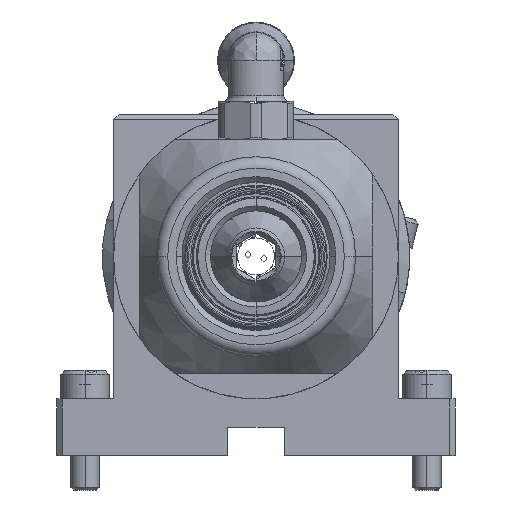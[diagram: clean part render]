
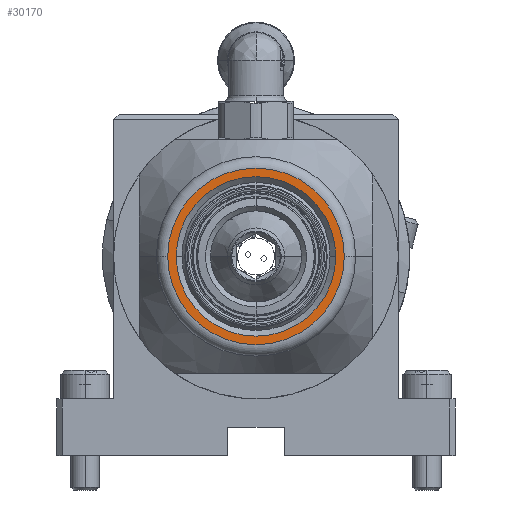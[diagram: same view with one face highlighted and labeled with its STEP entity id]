
A CAD part, front view. The second image highlights one B-rep face of the part: STEP entity #30170.
In plain terms, the highlighted planar face has unit normal (0, -1, 0).
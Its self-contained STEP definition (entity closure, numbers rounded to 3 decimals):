
#104 = AXIS2_PLACEMENT_3D ( 'NONE', #2593, #16788, #23913 ) ;
#194 = CIRCLE ( 'NONE', #104, 15.5 ) ;
#335 = DIRECTION ( 'NONE',  ( 0., 1., 0. ) ) ;
#1979 = DIRECTION ( 'NONE',  ( 0., -1., 0. ) ) ;
#2468 = CARTESIAN_POINT ( 'NONE',  ( -14., -149.5, 5. ) ) ;
#2593 = CARTESIAN_POINT ( 'NONE',  ( 0., -149.5, 5. ) ) ;
#3398 = VERTEX_POINT ( 'NONE', #12891 ) ;
#4180 = AXIS2_PLACEMENT_3D ( 'NONE', #35145, #30137, #27240 ) ;
#5967 = DIRECTION ( 'NONE',  ( -1., 0., 0. ) ) ;
#6585 = VERTEX_POINT ( 'NONE', #32621 ) ;
#6603 = AXIS2_PLACEMENT_3D ( 'NONE', #25229, #335, #5967 ) ;
#6792 = EDGE_LOOP ( 'NONE', ( #26340, #9188 ) ) ;
#9188 = ORIENTED_EDGE ( 'NONE', *, *, #17418, .T. ) ;
#10274 = EDGE_CURVE ( 'NONE', #3398, #6585, #26109, .T. ) ;
#10679 = CARTESIAN_POINT ( 'NONE',  ( 0., -149.5, 5. ) ) ;
#10890 = FACE_BOUND ( 'NONE', #6792, .T. ) ;
#12891 = CARTESIAN_POINT ( 'NONE',  ( 15.5, -149.5, 5. ) ) ;
#13250 = DIRECTION ( 'NONE',  ( -1., 0., 0. ) ) ;
#13474 = FACE_OUTER_BOUND ( 'NONE', #25783, .T. ) ;
#13621 = DIRECTION ( 'NONE',  ( 0., 1., 0. ) ) ;
#16166 = ORIENTED_EDGE ( 'NONE', *, *, #10274, .T. ) ;
#16575 = CARTESIAN_POINT ( 'NONE',  ( 14., -149.5, 5. ) ) ;
#16788 = DIRECTION ( 'NONE',  ( 0., -1., 0. ) ) ;
#17418 = EDGE_CURVE ( 'NONE', #31791, #17839, #29954, .T. ) ;
#17839 = VERTEX_POINT ( 'NONE', #2468 ) ;
#20398 = EDGE_CURVE ( 'NONE', #6585, #3398, #194, .T. ) ;
#23597 = AXIS2_PLACEMENT_3D ( 'NONE', #32790, #13621, #33177 ) ;
#23913 = DIRECTION ( 'NONE',  ( -1., 0., 0. ) ) ;
#25229 = CARTESIAN_POINT ( 'NONE',  ( 0., -149.5, 5. ) ) ;
#25783 = EDGE_LOOP ( 'NONE', ( #34396, #16166 ) ) ;
#26109 = CIRCLE ( 'NONE', #31394, 15.5 ) ;
#26340 = ORIENTED_EDGE ( 'NONE', *, *, #31281, .T. ) ;
#27240 = DIRECTION ( 'NONE',  ( -1., 0., 0. ) ) ;
#29801 = CIRCLE ( 'NONE', #6603, 14. ) ;
#29954 = CIRCLE ( 'NONE', #23597, 14. ) ;
#30137 = DIRECTION ( 'NONE',  ( 0., -1., 0. ) ) ;
#30170 = ADVANCED_FACE ( 'NONE', ( #13474, #10890 ), #33011, .T. ) ;
#31281 = EDGE_CURVE ( 'NONE', #17839, #31791, #29801, .T. ) ;
#31394 = AXIS2_PLACEMENT_3D ( 'NONE', #10679, #1979, #13250 ) ;
#31791 = VERTEX_POINT ( 'NONE', #16575 ) ;
#32621 = CARTESIAN_POINT ( 'NONE',  ( -15.5, -149.5, 5. ) ) ;
#32790 = CARTESIAN_POINT ( 'NONE',  ( 0., -149.5, 5. ) ) ;
#33011 = PLANE ( 'NONE',  #4180 ) ;
#33177 = DIRECTION ( 'NONE',  ( -1., 0., 0. ) ) ;
#34396 = ORIENTED_EDGE ( 'NONE', *, *, #20398, .T. ) ;
#35145 = CARTESIAN_POINT ( 'NONE',  ( 0., -149.5, 5. ) ) ;
